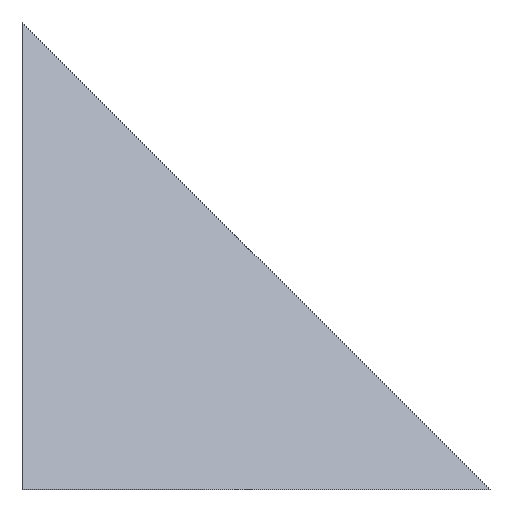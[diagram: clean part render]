
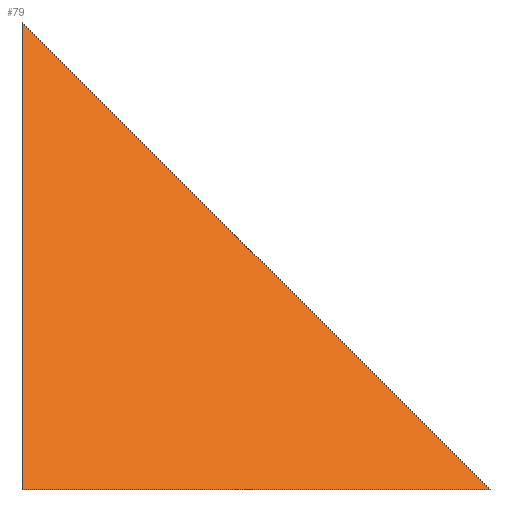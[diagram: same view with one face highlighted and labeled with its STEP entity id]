
A CAD part, top view. The second image highlights one B-rep face of the part: STEP entity #79.
In plain terms, the highlighted planar face has unit normal (0.577, 0.577, 0.577).
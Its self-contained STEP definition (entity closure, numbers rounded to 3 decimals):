
#2=CARTESIAN_POINT('',(10.,0.,0.));
#3=CARTESIAN_POINT('',(0.,10.,0.));
#4=CARTESIAN_POINT('',(0.,0.,10.));
#6=VERTEX_POINT('',#2);
#7=VERTEX_POINT('',#3);
#8=VERTEX_POINT('',#4);
#19=DIRECTION('',(-0.707,0.707,0.));
#20=VECTOR('',#19,1.);
#21=LINE('',#2,#20);
#22=DIRECTION('',(-0.707,0.,0.707));
#23=VECTOR('',#22,1.);
#24=LINE('',#2,#23);
#25=DIRECTION('',(0.,-0.707,0.707));
#26=VECTOR('',#25,1.);
#27=LINE('',#3,#26);
#33=EDGE_CURVE('',#6,#7,#21,.T.);
#34=EDGE_CURVE('',#6,#8,#24,.T.);
#35=EDGE_CURVE('',#7,#8,#27,.T.);
#70=ORIENTED_EDGE('',*,*,#33,.T.);
#71=ORIENTED_EDGE('',*,*,#35,.T.);
#72=ORIENTED_EDGE('',*,*,#34,.F.);
#73=EDGE_LOOP('',(#70,#71,#72));
#74=FACE_OUTER_BOUND('',#73,.T.);
#75=DIRECTION('',(0.577,0.577,0.577));
#76=DIRECTION('',(-0.707,0.707,0.));
#77=AXIS2_PLACEMENT_3D('',#2,#75,#76);
#78=PLANE('',#77);
#79=ADVANCED_FACE('',(#74),#78,.T.);
